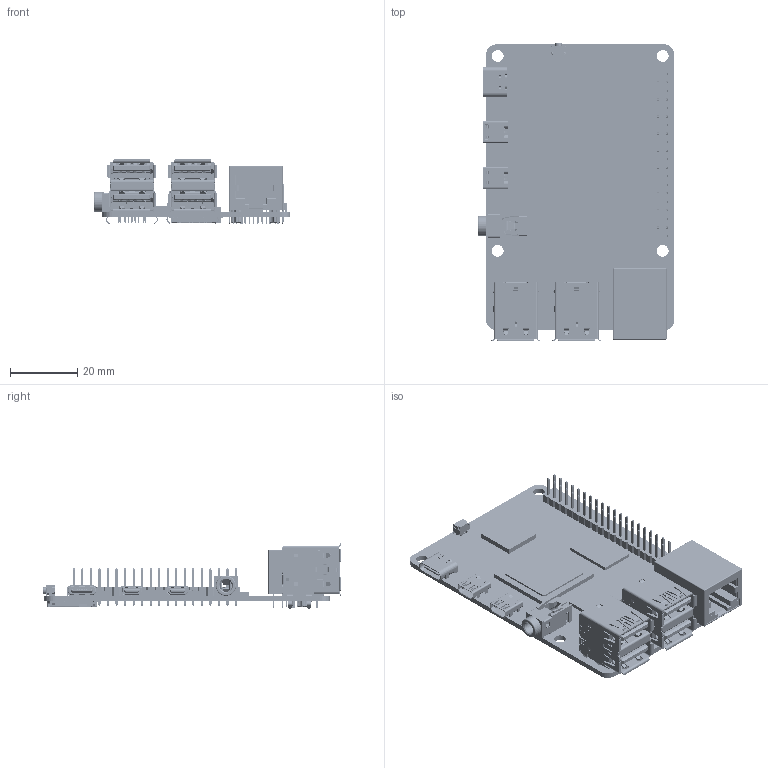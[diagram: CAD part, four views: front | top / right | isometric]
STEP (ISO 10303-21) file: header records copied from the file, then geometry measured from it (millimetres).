
FILE_DESCRIPTION(('FreeCAD Model'),'2;1');
FILE_NAME('Open CASCADE Shape Model','2023-02-13T20:03:07',('Author'),( ''),'Open CASCADE STEP processor 7.4','FreeCAD','Unknown');
FILE_SCHEMA(('AUTOMOTIVE_DESIGN { 1 0 10303 214 1 1 1 1 }'));
Length unit declared in the file: millimetre
Products named in the file (56): ROCK4Cp; PCB; USB_C; RJ45; USB3; KEY; SDCARD; GPIO; IMPORTED042; IMPORTED8-17385; IMPORTED043; IMPORTED5-44308; IMPORTED044; IMPORTED045; IMPORTED046; IMPORTED2-73793; IMPORTED3-78304; IMPORTED047; IMPORTED048; IMPORTED14-90970; IMPORTED049; IMPORTED11-107641; IMPORTED050; IMPORTED10-124850; IMPORTED051; IMPORTED052; IMPORTED053; IMPORTED054; IMPORTED055; IMPORTED056; IMPORTED057; IMPORTED4-232234; IMPORTED9-242198; IMPORTED17-249884; IMPORTED15-261592; IMPORTED12-266592; IMPORTED058; IMPORTED13-273786; IMPORTED059; IMPORTED060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
Assembly tree (57 placements, depth 3):
  ROCK4Cp
    PCB
    USB_C
    RJ45
    USB3  x2
    KEY
    SDCARD
    GPIO
      IMPORTED042
      IMPORTED8-17385
      IMPORTED043
      IMPORTED5-44308
      IMPORTED044
      IMPORTED045
      IMPORTED046
      IMPORTED2-73793
      IMPORTED3-78304
      IMPORTED047
      IMPORTED048
      IMPORTED14-90970
      IMPORTED049
      IMPORTED11-107641
      IMPORTED050
      IMPORTED10-124850
      IMPORTED051
      IMPORTED052
      IMPORTED053
      IMPORTED054
      IMPORTED055
      IMPORTED056
      IMPORTED057
      IMPORTED4-232234
      IMPORTED9-242198
      IMPORTED17-249884
      IMPORTED15-261592
      IMPORTED12-266592
      IMPORTED058
      IMPORTED13-273786
      IMPORTED059
      IMPORTED060
      IMPORTED061
      IMPORTED1-308013
      IMPORTED062
      IMPORTED7-320240
      IMPORTED16-325264
      IMPORTED063
      IMPORTED064
      IMPORTED6-361739
      IMPORTED065
    Headphone
      IMPORTED1-308014
      IMPORTED3-78305
      IMPORTED5-191144
      IMPORTED4-232670
      IMPORTED2-383732
    MICRO_HDMI_4K  x2
Bounding box: 58.5 x 88.55 x 19.4 mm (x, y, z)
Volume: 17395.4 mm3; surface area: 31935.6 mm2
Topology: 55 solids, 55 shells, 12450 faces, 35961 edges, 23238 vertices
Faces by surface type: plane 8766, cylinder 3245, bspline 242, torus 124, cone 37, sphere 20, extrusion 16
Entity records: 565698 total; most frequent: CARTESIAN_POINT 125399, DIRECTION 79116, VECTOR 54762, LINE 54754, ORIENTED_EDGE 42750, PCURVE 42750, DEFINITIONAL_REPRESENTATION 42750, EDGE_CURVE 21375
